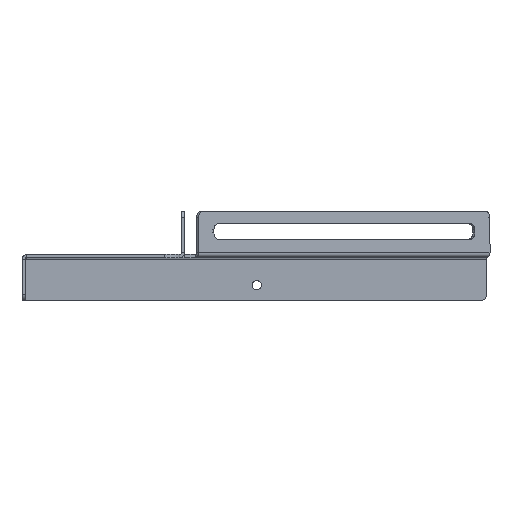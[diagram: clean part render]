
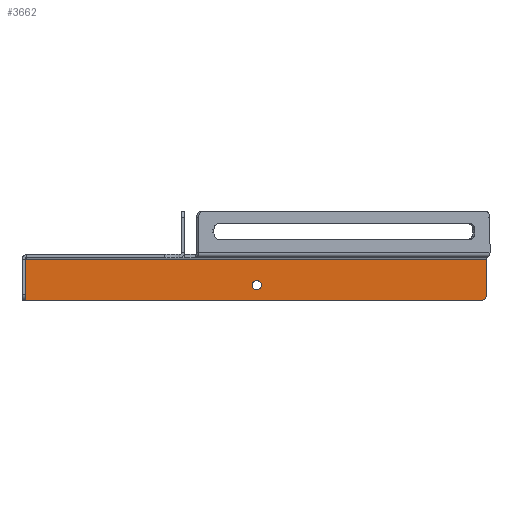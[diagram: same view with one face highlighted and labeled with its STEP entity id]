
A CAD part, left-side view. The second image highlights one B-rep face of the part: STEP entity #3662.
In plain terms, the highlighted planar face has unit normal (-1, 0, 0).
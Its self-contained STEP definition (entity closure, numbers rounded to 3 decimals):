
#62 = AXIS2_PLACEMENT_3D ( 'NONE', #66, #2729, #3340 ) ;
#66 = CARTESIAN_POINT ( 'NONE',  ( 392.779, -49.644, -20. ) ) ;
#132 = EDGE_CURVE ( 'NONE', #942, #2692, #3492, .T. ) ;
#230 = CARTESIAN_POINT ( 'NONE',  ( 392.779, -199.644, -26. ) ) ;
#285 = VECTOR ( 'NONE', #820, 1000. ) ;
#347 = ORIENTED_EDGE ( 'NONE', *, *, #3266, .T. ) ;
#433 = VERTEX_POINT ( 'NONE', #1018 ) ;
#489 = CARTESIAN_POINT ( 'NONE',  ( 392.779, -46.644, -20. ) ) ;
#541 = CIRCLE ( 'NONE', #2533, 4. ) ;
#550 = VERTEX_POINT ( 'NONE', #2973 ) ;
#575 = CARTESIAN_POINT ( 'NONE',  ( 392.779, -195.644, -26. ) ) ;
#820 = DIRECTION ( 'NONE',  ( 0., -1., 0. ) ) ;
#882 = EDGE_CURVE ( 'NONE', #550, #4073, #2952, .T. ) ;
#942 = VERTEX_POINT ( 'NONE', #2018 ) ;
#955 = DIRECTION ( 'NONE',  ( 1., 0., 0. ) ) ;
#966 = CIRCLE ( 'NONE', #1449, 3. ) ;
#985 = DIRECTION ( 'NONE',  ( 0., -1., 0. ) ) ;
#1018 = CARTESIAN_POINT ( 'NONE',  ( 392.779, -195.644, -30. ) ) ;
#1038 = DIRECTION ( 'NONE',  ( 0., 1., 0. ) ) ;
#1231 = DIRECTION ( 'NONE',  ( 0., 1., 0. ) ) ;
#1253 = LINE ( 'NONE', #4213, #2271 ) ;
#1274 = DIRECTION ( 'NONE',  ( 0., 0., 1. ) ) ;
#1358 = VECTOR ( 'NONE', #2834, 1000. ) ;
#1449 = AXIS2_PLACEMENT_3D ( 'NONE', #1801, #4106, #1231 ) ;
#1457 = EDGE_LOOP ( 'NONE', ( #3890, #2095, #347, #4007, #3005, #4027 ) ) ;
#1625 = CARTESIAN_POINT ( 'NONE',  ( 392.779, 0., 0. ) ) ;
#1801 = CARTESIAN_POINT ( 'NONE',  ( 392.779, -49.644, -20. ) ) ;
#1831 = VERTEX_POINT ( 'NONE', #489 ) ;
#1857 = CARTESIAN_POINT ( 'NONE',  ( 392.779, 0., -30. ) ) ;
#1909 = CARTESIAN_POINT ( 'NONE',  ( 392.779, -52.644, -20. ) ) ;
#1933 = AXIS2_PLACEMENT_3D ( 'NONE', #1625, #955, #3930 ) ;
#2008 = LINE ( 'NONE', #2939, #3291 ) ;
#2018 = CARTESIAN_POINT ( 'NONE',  ( 392.779, 101.256, -3. ) ) ;
#2090 = CARTESIAN_POINT ( 'NONE',  ( 392.779, 101.256, -30. ) ) ;
#2095 = ORIENTED_EDGE ( 'NONE', *, *, #2758, .T. ) ;
#2271 = VECTOR ( 'NONE', #1274, 1000. ) ;
#2496 = VERTEX_POINT ( 'NONE', #1909 ) ;
#2533 = AXIS2_PLACEMENT_3D ( 'NONE', #575, #3201, #2548 ) ;
#2548 = DIRECTION ( 'NONE',  ( 0., 1., 0. ) ) ;
#2580 = PLANE ( 'NONE',  #1933 ) ;
#2598 = FACE_BOUND ( 'NONE', #3231, .T. ) ;
#2678 = ORIENTED_EDGE ( 'NONE', *, *, #3428, .T. ) ;
#2692 = VERTEX_POINT ( 'NONE', #2090 ) ;
#2729 = DIRECTION ( 'NONE',  ( 1., 0., 0. ) ) ;
#2740 = CIRCLE ( 'NONE', #62, 3. ) ;
#2758 = EDGE_CURVE ( 'NONE', #433, #3220, #541, .T. ) ;
#2834 = DIRECTION ( 'NONE',  ( 0., 0., -1. ) ) ;
#2939 = CARTESIAN_POINT ( 'NONE',  ( 392.779, 100.356, -3. ) ) ;
#2952 = LINE ( 'NONE', #3937, #3135 ) ;
#2973 = CARTESIAN_POINT ( 'NONE',  ( 392.779, 100.356, -3. ) ) ;
#3005 = ORIENTED_EDGE ( 'NONE', *, *, #4252, .T. ) ;
#3135 = VECTOR ( 'NONE', #985, 1000. ) ;
#3143 = CARTESIAN_POINT ( 'NONE',  ( 392.779, 101.256, -3. ) ) ;
#3164 = EDGE_CURVE ( 'NONE', #2496, #1831, #966, .T. ) ;
#3186 = FACE_OUTER_BOUND ( 'NONE', #1457, .T. ) ;
#3201 = DIRECTION ( 'NONE',  ( -1., 0., 0. ) ) ;
#3220 = VERTEX_POINT ( 'NONE', #230 ) ;
#3231 = EDGE_LOOP ( 'NONE', ( #2678, #3376 ) ) ;
#3266 = EDGE_CURVE ( 'NONE', #3220, #4073, #1253, .T. ) ;
#3291 = VECTOR ( 'NONE', #1038, 1000. ) ;
#3340 = DIRECTION ( 'NONE',  ( 0., 1., 0. ) ) ;
#3376 = ORIENTED_EDGE ( 'NONE', *, *, #3164, .T. ) ;
#3428 = EDGE_CURVE ( 'NONE', #1831, #2496, #2740, .T. ) ;
#3492 = LINE ( 'NONE', #3143, #1358 ) ;
#3662 = ADVANCED_FACE ( 'NONE', ( #2598, #3186 ), #2580, .F. ) ;
#3761 = LINE ( 'NONE', #1857, #285 ) ;
#3890 = ORIENTED_EDGE ( 'NONE', *, *, #4034, .T. ) ;
#3930 = DIRECTION ( 'NONE',  ( 0., 1., 0. ) ) ;
#3937 = CARTESIAN_POINT ( 'NONE',  ( 392.779, 100.356, -3. ) ) ;
#4007 = ORIENTED_EDGE ( 'NONE', *, *, #882, .F. ) ;
#4027 = ORIENTED_EDGE ( 'NONE', *, *, #132, .T. ) ;
#4034 = EDGE_CURVE ( 'NONE', #2692, #433, #3761, .T. ) ;
#4073 = VERTEX_POINT ( 'NONE', #4222 ) ;
#4106 = DIRECTION ( 'NONE',  ( 1., 0., 0. ) ) ;
#4213 = CARTESIAN_POINT ( 'NONE',  ( 392.779, -199.644, 0. ) ) ;
#4222 = CARTESIAN_POINT ( 'NONE',  ( 392.779, -199.644, -3. ) ) ;
#4252 = EDGE_CURVE ( 'NONE', #550, #942, #2008, .T. ) ;
